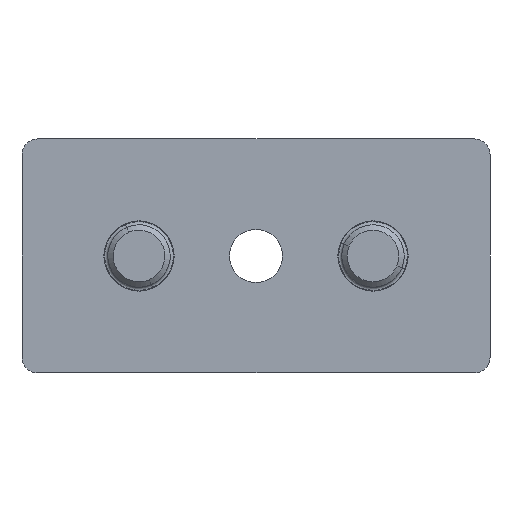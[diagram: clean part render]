
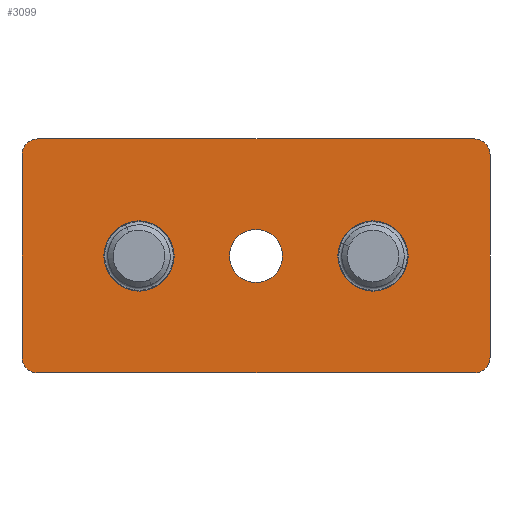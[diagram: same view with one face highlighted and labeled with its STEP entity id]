
A CAD part, front view. The second image highlights one B-rep face of the part: STEP entity #3099.
In plain terms, the highlighted planar face has unit normal (0, -1, 0).
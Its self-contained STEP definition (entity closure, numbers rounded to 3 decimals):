
#18 = CARTESIAN_POINT ( 'NONE',  ( 25.831, -0.057, -13.751 ) ) ;
#61 = AXIS2_PLACEMENT_3D ( 'NONE', #1133, #2601, #1639 ) ;
#84 = DIRECTION ( 'NONE',  ( 0., 0., -1. ) ) ;
#103 = ORIENTED_EDGE ( 'NONE', *, *, #300, .F. ) ;
#109 = VERTEX_POINT ( 'NONE', #3036 ) ;
#131 = FACE_BOUND ( 'NONE', #797, .T. ) ;
#180 = LINE ( 'NONE', #2811, #1256 ) ;
#195 = VERTEX_POINT ( 'NONE', #911 ) ;
#198 = ORIENTED_EDGE ( 'NONE', *, *, #3018, .T. ) ;
#211 = CIRCLE ( 'NONE', #2821, 2. ) ;
#244 = CIRCLE ( 'NONE', #895, 4.5 ) ;
#260 = CARTESIAN_POINT ( 'NONE',  ( -19.169, -0.057, -5.251 ) ) ;
#269 = CARTESIAN_POINT ( 'NONE',  ( -34.169, -0.057, 12.249 ) ) ;
#295 = EDGE_CURVE ( 'NONE', #2413, #2687, #1599, .T. ) ;
#300 = EDGE_CURVE ( 'NONE', #667, #1515, #1859, .T. ) ;
#320 = LINE ( 'NONE', #269, #471 ) ;
#334 = DIRECTION ( 'NONE',  ( 0., -1., 0. ) ) ;
#376 = AXIS2_PLACEMENT_3D ( 'NONE', #2905, #712, #3151 ) ;
#379 = EDGE_CURVE ( 'NONE', #2152, #2292, #2105, .T. ) ;
#416 = CARTESIAN_POINT ( 'NONE',  ( 23.831, -0.057, 14.249 ) ) ;
#443 = FACE_BOUND ( 'NONE', #1759, .T. ) ;
#471 = VECTOR ( 'NONE', #2764, 1000. ) ;
#484 = ORIENTED_EDGE ( 'NONE', *, *, #943, .T. ) ;
#537 = VERTEX_POINT ( 'NONE', #18 ) ;
#667 = VERTEX_POINT ( 'NONE', #2049 ) ;
#672 = ORIENTED_EDGE ( 'NONE', *, *, #1987, .F. ) ;
#676 = DIRECTION ( 'NONE',  ( 0., 1., 0. ) ) ;
#678 = FACE_OUTER_BOUND ( 'NONE', #2052, .T. ) ;
#712 = DIRECTION ( 'NONE',  ( 0., -1., 0. ) ) ;
#716 = CARTESIAN_POINT ( 'NONE',  ( -19.169, -0.057, -0.751 ) ) ;
#727 = EDGE_CURVE ( 'NONE', #731, #2075, #1817, .T. ) ;
#731 = VERTEX_POINT ( 'NONE', #951 ) ;
#767 = AXIS2_PLACEMENT_3D ( 'NONE', #2151, #2424, #1669 ) ;
#796 = CARTESIAN_POINT ( 'NONE',  ( 25.831, -0.057, -13.751 ) ) ;
#797 = EDGE_LOOP ( 'NONE', ( #1596, #672 ) ) ;
#895 = AXIS2_PLACEMENT_3D ( 'NONE', #716, #2706, #1431 ) ;
#898 = CARTESIAN_POINT ( 'NONE',  ( -34.169, -0.057, 12.249 ) ) ;
#911 = CARTESIAN_POINT ( 'NONE',  ( 23.831, -0.057, -15.751 ) ) ;
#943 = EDGE_CURVE ( 'NONE', #2775, #2174, #211, .T. ) ;
#948 = DIRECTION ( 'NONE',  ( 0., 1., 0. ) ) ;
#951 = CARTESIAN_POINT ( 'NONE',  ( -4.169, -0.057, 2.649 ) ) ;
#1031 = EDGE_CURVE ( 'NONE', #537, #2152, #1510, .T. ) ;
#1088 = CARTESIAN_POINT ( 'NONE',  ( 10.831, -0.057, -0.751 ) ) ;
#1133 = CARTESIAN_POINT ( 'NONE',  ( -19.169, -0.057, -0.751 ) ) ;
#1164 = CIRCLE ( 'NONE', #767, 4.5 ) ;
#1210 = LINE ( 'NONE', #416, #2641 ) ;
#1238 = CARTESIAN_POINT ( 'NONE',  ( 23.831, -0.057, -13.751 ) ) ;
#1256 = VECTOR ( 'NONE', #3089, 1000. ) ;
#1273 = AXIS2_PLACEMENT_3D ( 'NONE', #3143, #948, #2913 ) ;
#1342 = EDGE_CURVE ( 'NONE', #2777, #2775, #320, .T. ) ;
#1412 = CARTESIAN_POINT ( 'NONE',  ( -32.169, -0.057, -13.751 ) ) ;
#1431 = DIRECTION ( 'NONE',  ( 0., 0., -1. ) ) ;
#1485 = ORIENTED_EDGE ( 'NONE', *, *, #379, .T. ) ;
#1495 = DIRECTION ( 'NONE',  ( 0., -1., 0. ) ) ;
#1510 = LINE ( 'NONE', #796, #2048 ) ;
#1515 = VERTEX_POINT ( 'NONE', #1892 ) ;
#1531 = EDGE_CURVE ( 'NONE', #1515, #667, #1164, .T. ) ;
#1596 = ORIENTED_EDGE ( 'NONE', *, *, #295, .F. ) ;
#1599 = CIRCLE ( 'NONE', #61, 4.5 ) ;
#1605 = EDGE_CURVE ( 'NONE', #195, #537, #2146, .T. ) ;
#1636 = EDGE_LOOP ( 'NONE', ( #2476, #103 ) ) ;
#1639 = DIRECTION ( 'NONE',  ( 0., 0., -1. ) ) ;
#1669 = DIRECTION ( 'NONE',  ( 0., 0., -1. ) ) ;
#1673 = DIRECTION ( 'NONE',  ( 0., -1., 0. ) ) ;
#1713 = CARTESIAN_POINT ( 'NONE',  ( -19.169, -0.057, 3.749 ) ) ;
#1723 = DIRECTION ( 'NONE',  ( 0., 0., -1. ) ) ;
#1759 = EDGE_LOOP ( 'NONE', ( #2116, #2872 ) ) ;
#1792 = CARTESIAN_POINT ( 'NONE',  ( -4.169, -0.057, -4.151 ) ) ;
#1813 = AXIS2_PLACEMENT_3D ( 'NONE', #1412, #1870, #2150 ) ;
#1817 = CIRCLE ( 'NONE', #2226, 3.4 ) ;
#1859 = CIRCLE ( 'NONE', #2971, 4.5 ) ;
#1870 = DIRECTION ( 'NONE',  ( 0., -1., 0. ) ) ;
#1892 = CARTESIAN_POINT ( 'NONE',  ( 10.831, -0.057, 3.749 ) ) ;
#1903 = CIRCLE ( 'NONE', #2055, 2. ) ;
#1922 = CARTESIAN_POINT ( 'NONE',  ( -4.169, -0.057, -0.751 ) ) ;
#1985 = ORIENTED_EDGE ( 'NONE', *, *, #1031, .T. ) ;
#1987 = EDGE_CURVE ( 'NONE', #2687, #2413, #244, .T. ) ;
#2037 = ORIENTED_EDGE ( 'NONE', *, *, #2928, .T. ) ;
#2048 = VECTOR ( 'NONE', #2772, 1000. ) ;
#2049 = CARTESIAN_POINT ( 'NONE',  ( 10.831, -0.057, -5.251 ) ) ;
#2052 = EDGE_LOOP ( 'NONE', ( #484, #2310, #2956, #1985, #1485, #2037, #198, #2950 ) ) ;
#2055 = AXIS2_PLACEMENT_3D ( 'NONE', #2188, #334, #84 ) ;
#2075 = VERTEX_POINT ( 'NONE', #1792 ) ;
#2105 = CIRCLE ( 'NONE', #376, 2. ) ;
#2116 = ORIENTED_EDGE ( 'NONE', *, *, #727, .T. ) ;
#2117 = PLANE ( 'NONE',  #1813 ) ;
#2120 = DIRECTION ( 'NONE',  ( 0., 0., -1. ) ) ;
#2146 = CIRCLE ( 'NONE', #2763, 2. ) ;
#2150 = DIRECTION ( 'NONE',  ( 0., 0., -1. ) ) ;
#2151 = CARTESIAN_POINT ( 'NONE',  ( 10.831, -0.057, -0.751 ) ) ;
#2152 = VERTEX_POINT ( 'NONE', #2769 ) ;
#2154 = CARTESIAN_POINT ( 'NONE',  ( -32.169, -0.057, -13.751 ) ) ;
#2174 = VERTEX_POINT ( 'NONE', #2527 ) ;
#2188 = CARTESIAN_POINT ( 'NONE',  ( -32.169, -0.057, 12.249 ) ) ;
#2226 = AXIS2_PLACEMENT_3D ( 'NONE', #1922, #676, #2864 ) ;
#2292 = VERTEX_POINT ( 'NONE', #2330 ) ;
#2310 = ORIENTED_EDGE ( 'NONE', *, *, #2931, .T. ) ;
#2330 = CARTESIAN_POINT ( 'NONE',  ( 23.831, -0.057, 14.249 ) ) ;
#2413 = VERTEX_POINT ( 'NONE', #1713 ) ;
#2424 = DIRECTION ( 'NONE',  ( 0., -1., 0. ) ) ;
#2427 = DIRECTION ( 'NONE',  ( 0., 0., -1. ) ) ;
#2476 = ORIENTED_EDGE ( 'NONE', *, *, #1531, .F. ) ;
#2479 = EDGE_CURVE ( 'NONE', #2075, #731, #3051, .T. ) ;
#2527 = CARTESIAN_POINT ( 'NONE',  ( -32.169, -0.057, -15.751 ) ) ;
#2601 = DIRECTION ( 'NONE',  ( 0., -1., 0. ) ) ;
#2637 = FACE_BOUND ( 'NONE', #1636, .T. ) ;
#2641 = VECTOR ( 'NONE', #3118, 1000. ) ;
#2687 = VERTEX_POINT ( 'NONE', #260 ) ;
#2706 = DIRECTION ( 'NONE',  ( 0., -1., 0. ) ) ;
#2763 = AXIS2_PLACEMENT_3D ( 'NONE', #1238, #1495, #1723 ) ;
#2764 = DIRECTION ( 'NONE',  ( 0., 0., -1. ) ) ;
#2769 = CARTESIAN_POINT ( 'NONE',  ( 25.831, -0.057, 12.249 ) ) ;
#2772 = DIRECTION ( 'NONE',  ( 0., 0., 1. ) ) ;
#2775 = VERTEX_POINT ( 'NONE', #3049 ) ;
#2777 = VERTEX_POINT ( 'NONE', #898 ) ;
#2811 = CARTESIAN_POINT ( 'NONE',  ( -32.169, -0.057, -15.751 ) ) ;
#2821 = AXIS2_PLACEMENT_3D ( 'NONE', #2154, #1673, #2427 ) ;
#2864 = DIRECTION ( 'NONE',  ( 0., 0., -1. ) ) ;
#2872 = ORIENTED_EDGE ( 'NONE', *, *, #2479, .T. ) ;
#2905 = CARTESIAN_POINT ( 'NONE',  ( 23.831, -0.057, 12.249 ) ) ;
#2913 = DIRECTION ( 'NONE',  ( 0., 0., -1. ) ) ;
#2928 = EDGE_CURVE ( 'NONE', #2292, #109, #1210, .T. ) ;
#2931 = EDGE_CURVE ( 'NONE', #2174, #195, #180, .T. ) ;
#2950 = ORIENTED_EDGE ( 'NONE', *, *, #1342, .T. ) ;
#2956 = ORIENTED_EDGE ( 'NONE', *, *, #1605, .T. ) ;
#2971 = AXIS2_PLACEMENT_3D ( 'NONE', #1088, #3045, #2120 ) ;
#3018 = EDGE_CURVE ( 'NONE', #109, #2777, #1903, .T. ) ;
#3036 = CARTESIAN_POINT ( 'NONE',  ( -32.169, -0.057, 14.249 ) ) ;
#3045 = DIRECTION ( 'NONE',  ( 0., -1., 0. ) ) ;
#3049 = CARTESIAN_POINT ( 'NONE',  ( -34.169, -0.057, -13.751 ) ) ;
#3051 = CIRCLE ( 'NONE', #1273, 3.4 ) ;
#3089 = DIRECTION ( 'NONE',  ( 1., 0., 0. ) ) ;
#3099 = ADVANCED_FACE ( 'NONE', ( #2637, #131, #678, #443 ), #2117, .T. ) ;
#3118 = DIRECTION ( 'NONE',  ( -1., 0., 0. ) ) ;
#3143 = CARTESIAN_POINT ( 'NONE',  ( -4.169, -0.057, -0.751 ) ) ;
#3151 = DIRECTION ( 'NONE',  ( 0., 0., -1. ) ) ;
